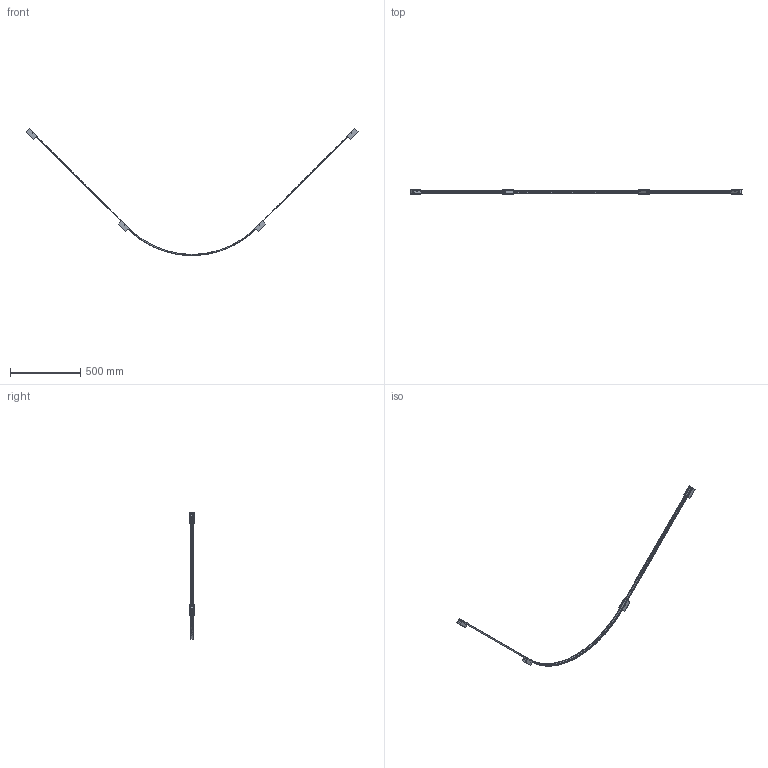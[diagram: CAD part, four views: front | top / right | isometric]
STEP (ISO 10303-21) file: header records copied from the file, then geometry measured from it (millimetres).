
FILE_DESCRIPTION(/* description */ (''),/* implementation_level */ '2;1');
FILE_NAME(/* name */ 'A112B2~1',/* time_stamp */ '2024-07-02T12:26:21+02:00',/* author */ (''),/* organization */ (''),/* preprocessor_version */ 'ST-DEVELOPER v16.5',/* originating_system */ '',/* authorisation */ '');
FILE_SCHEMA (('AUTOMOTIVE_DESIGN'));
Length unit declared in the file: millimetre
Products named in the file (10): Configurazione 6; P22UT.0088 (blocchetto di fissaggio a muro ALL  + cover per blocchett
o di fissaggio ALL)_P22UT.0088 - passante; socket set screw flat point_iso_ISO 4026 - M3 x 6-N; 3300.0428000.00 (profilo quadro a U ALL 35x35mm H 75mm sp 2 con fori 
M4)_3306.0428075.00; 3300.0427000.00 (blocchetto di fissaggio a muro ALL 30x32,8mm H 75,5m
m)_3307.0427075.00; P22UT.0088 (blocchetto di fissaggio a muro ALL  + cover per blocchett
o di fissaggio ALL)_P22UT.0088 - con chiusura inferiore; sheet metal screws_din_Tapping screw DIN 7049-ST3.5x9.5-C-H-N; 4504.0008000.00 (bloccacavo a ponticello NY bianco Steab 5922-16)_450
4.0008000.00; 3300.0429000.00 (piastra di chiusura ALL 27x10mm sp 1,2)_3301.0429000.
00; Profilo curvato_Configurazione 6
Assembly tree (17 placements, depth 3):
  Configurazione 6
    P22UT.0088 (blocchetto di fissaggio a muro ALL  + cover per blocchett
o di fissaggio ALL)_P22UT.0088 - passante  x2
      socket set screw flat point_iso_ISO 4026 - M3 x 6-N
      3300.0428000.00 (profilo quadro a U ALL 35x35mm H 75mm sp 2 con fori 
M4)_3306.0428075.00
      3300.0427000.00 (blocchetto di fissaggio a muro ALL 30x32,8mm H 75,5m
m)_3307.0427075.00
    P22UT.0088 (blocchetto di fissaggio a muro ALL  + cover per blocchett
o di fissaggio ALL)_P22UT.0088 - con chiusura inferiore  x2
      sheet metal screws_din_Tapping screw DIN 7049-ST3.5x9.5-C-H-N
      4504.0008000.00 (bloccacavo a ponticello NY bianco Steab 5922-16)_450
4.0008000.00
      3300.0429000.00 (piastra di chiusura ALL 27x10mm sp 1,2)_3301.0429000.
00
      socket set screw flat point_iso_ISO 4026 - M3 x 6-N
      3300.0427000.00 (blocchetto di fissaggio a muro ALL 30x32,8mm H 75,5m
m)_3307.0427075.00
      3300.0428000.00 (profilo quadro a U ALL 35x35mm H 75mm sp 2 con fori 
M4)_3306.0428075.00
    Profilo curvato_Configurazione 6
Bounding box: 2365.16 x 35 x 904.6 mm (x, y, z)
Volume: 398557.5 mm3; surface area: 543662.9 mm2
Topology: 26 solids, 26 shells, 2106 faces, 5072 edges, 3010 vertices
Faces by surface type: bspline 1560, plane 546
Entity records: 27993 total; most frequent: CARTESIAN_POINT 18753, ORIENTED_EDGE 3066, EDGE_CURVE 1533, VERTEX_POINT 910, B_SPLINE_CURVE_WITH_KNOTS 810, EDGE_LOOP 675, ADVANCED_FACE 644, FACE_OUTER_BOUND 644
